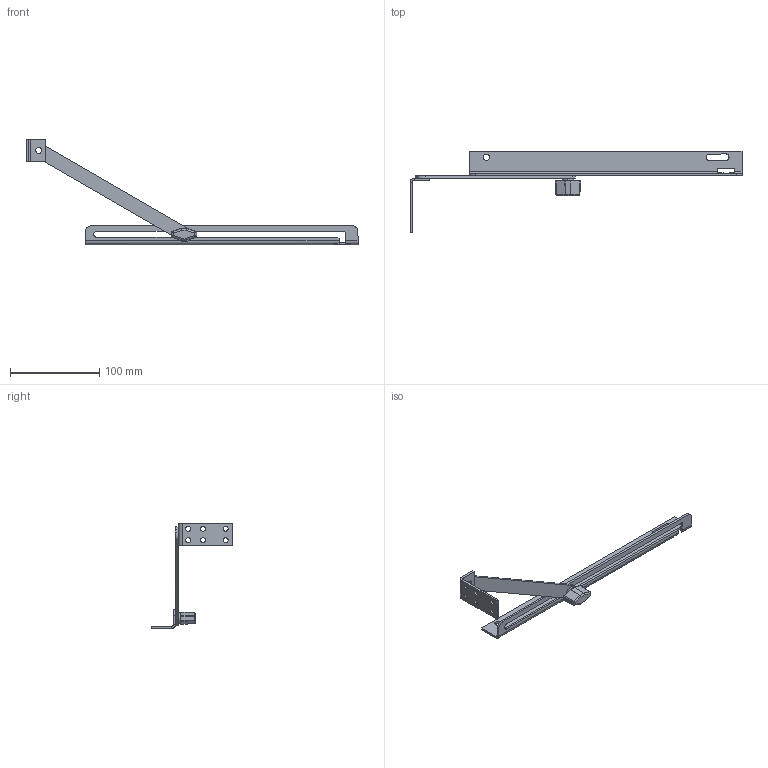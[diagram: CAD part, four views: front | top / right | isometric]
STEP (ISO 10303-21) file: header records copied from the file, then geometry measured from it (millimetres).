
FILE_DESCRIPTION (( 'STEP AP214' ), '1' );
FILE_NAME ('adstopk.STEP', '2007-04-11T17:54:28', ( 'User' ), ( 'Hoffman Enclosures' ), 'SwSTEP 2.0', 'SolidWorks 2006004', '' );
FILE_SCHEMA (( 'AUTOMOTIVE_DESIGN' ));
Length unit declared in the file: inch
Products named in the file (5): stop_arm_22175001; brkt_dr_64136001; bar_knob_45129001; mtg_brkt_64321001; adstopk
Assembly tree (4 placements, depth 2):
  adstopk
    brkt_dr_64136001
    mtg_brkt_64321001
    stop_arm_22175001
    bar_knob_45129001
Bounding box: 371.22 x 91.06 x 118.24 mm (x, y, z)
Volume: 46293.6 mm3; surface area: 40091.1 mm2
Topology: 4 solids, 4 shells, 127 faces, 317 edges, 190 vertices
Faces by surface type: plane 66, cylinder 45, bspline 8, cone 8
Entity records: 4983 total; most frequent: CARTESIAN_POINT 1803, DIRECTION 623, ORIENTED_EDGE 618, EDGE_CURVE 309, AXIS2_PLACEMENT_3D 212, VECTOR 199, LINE 199, VERTEX_POINT 190
